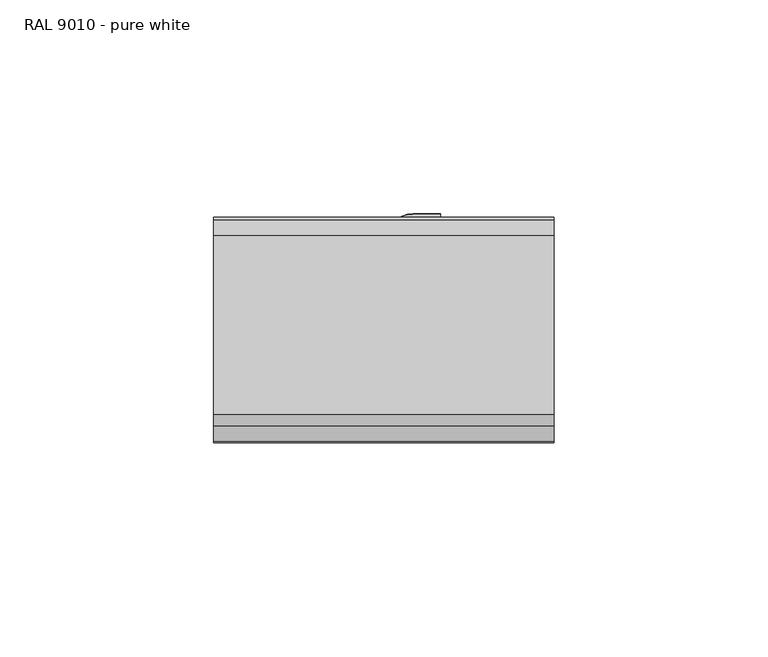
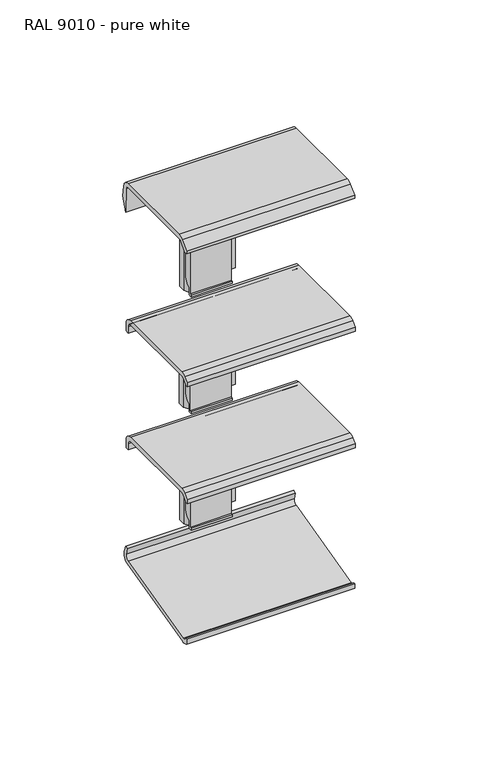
"""IFC4 building model written with IfcOpenShell, lengths in millimetres: cable carrier fitting geometry, Electrical_Installations_Hager_GBD-Joint-Cover-And-Coupling-Piece-Curved : RAL 9010 - pure white."""

from ifc_helpers import new_model, si_unit, point, frame, frame_2d, origin, place, context, project, spatial, polyline, circle_curve, trimmed, segment, composite_curve, outline, extrude, source, transform, mapped, element, save


def ral_9010_pure_white_cb2eff81(model_context):
    return source(origin(), model_context, "Body", "SweptSolid", [
        extrude(outline(composite_curve([segment(polyline([(18.4940065, -35.421875), (18.4940065, -34.621875), (20.4940065, -34.621875), (20.4940065, -38.5456204)]), True, "CONTINUOUS"), segment(trimmed(circle_curve(frame_2d((17.0216088, -43.6155883)), 6.1450891), [point((20.4940065, -38.5456204))], [point((23.1502565, -43.1663694))], False, "CARTESIAN"), True, "CONTINUOUS"), segment(polyline([(23.1502565, -43.1663694), (23.1502565, -70.2515165)]), True, "CONTINUOUS"), segment(trimmed(circle_curve(frame_2d((18.0199211, -70.2515165)), 5.1303355), [point((23.1502565, -70.2515165))], [point((20.4940065, -74.7458733))], False, "CARTESIAN"), True, "CONTINUOUS"), segment(polyline([(20.4940065, -74.7458733), (20.4940065, -78.4625), (18.727375, -78.4625), (18.727375, -77.457314), (19.6940065, -77.457314), (19.6940065, -35.421875), (18.4940065, -35.421875)]), True, "CONTINUOUS")], self_intersect=False)), frame((-0.7125, 0.0, 0.0), z_axis=(1.0, 0.0, 0.0), x_axis=(0.0, 1.0, 0.0)), (0.0, 0.0, 1.0), 19.5),
        extrude(outline(composite_curve([segment(polyline([(-0.7125, 28.3502565), (15.6888516, 28.3502565)]), True, "CONTINUOUS"), segment(trimmed(circle_curve(frame_2d((19.3875, 23.2502565)), 6.3), [point((15.6888516, 28.3502565))], [point((19.3875, 29.5502565))], False, "CARTESIAN"), True, "CONTINUOUS"), segment(polyline([(19.3875, 29.5502565), (25.7875, 29.5502565), (25.7875, 28.5502565), (18.7875, 28.5502565), (18.7875, 25.0502565), (17.5173294, 22.8502565), (16.234474, 22.8502565), (16.234474, 25.0502565), (1.791584, 25.0502565), (1.791584, 22.8502565), (0.5576706, 22.8502565), (-0.7125, 25.0502565), (-0.7125, 28.3502565)]), True, "CONTINUOUS")], self_intersect=False)), frame((0.0, 0.0, -79.0), z_axis=(0.0, 0.0, 1.0), x_axis=(1.0, 0.0, 0.0)), (0.0, 0.0, 1.0), 45.0),
        extrude(outline(composite_curve([segment(polyline([(18.4705289, 81.378125), (18.4705289, 82.178125), (20.4705289, 82.178125), (20.4705289, 78.2543796)]), True, "CONTINUOUS"), segment(trimmed(circle_curve(frame_2d((16.9981311, 73.1844117)), 6.1450891), [point((20.4705289, 78.2543796))], [point((23.1267789, 73.6336306))], False, "CARTESIAN"), True, "CONTINUOUS"), segment(polyline([(23.1267789, 73.6336306), (23.1267789, 46.5484835)]), True, "CONTINUOUS"), segment(trimmed(circle_curve(frame_2d((17.9964434, 46.5484835)), 5.1303355), [point((23.1267789, 46.5484835))], [point((20.4705289, 42.0541267))], False, "CARTESIAN"), True, "CONTINUOUS"), segment(polyline([(20.4705289, 42.0541267), (20.4705289, 38.3375), (18.7038973, 38.3375), (18.7038973, 39.342686), (19.6705289, 39.342686), (19.6705289, 81.378125), (18.4705289, 81.378125)]), True, "CONTINUOUS")], self_intersect=False)), frame((-0.7125, 0.0, 0.0), z_axis=(1.0, 0.0, 0.0), x_axis=(0.0, 1.0, 0.0)), (0.0, 0.0, 1.0), 19.5),
        extrude(outline(composite_curve([segment(polyline([(-0.7125, 28.3267789), (15.6888516, 28.3267789)]), True, "CONTINUOUS"), segment(trimmed(circle_curve(frame_2d((19.3875, 23.2267789)), 6.3), [point((15.6888516, 28.3267789))], [point((19.3875, 29.5267789))], False, "CARTESIAN"), True, "CONTINUOUS"), segment(polyline([(19.3875, 29.5267789), (25.7875, 29.5267789), (25.7875, 28.5267789), (18.7875, 28.5267789), (18.7875, 25.0267789), (17.5173294, 22.8267789), (16.234474, 22.8267789), (16.234474, 25.0267789), (1.791584, 25.0267789), (1.791584, 22.8267789), (0.5576706, 22.8267789), (-0.7125, 25.0267789), (-0.7125, 28.3267789)]), True, "CONTINUOUS")], self_intersect=False)), frame((0.0, 0.0, 37.8), z_axis=(0.0, 0.0, 1.0), x_axis=(1.0, 0.0, 0.0)), (0.0, 0.0, 1.0), 45.0),
        extrude(outline(composite_curve([segment(polyline([(18.54375, 22.878125), (18.54375, 23.678125), (20.54375, 23.678125), (20.54375, 19.7543796)]), True, "CONTINUOUS"), segment(trimmed(circle_curve(frame_2d((17.0713523, 14.6844117)), 6.1450891), [point((20.54375, 19.7543796))], [point((23.2, 15.1336306))], False, "CARTESIAN"), True, "CONTINUOUS"), segment(polyline([(23.2, 15.1336306), (23.2, -11.9515165)]), True, "CONTINUOUS"), segment(trimmed(circle_curve(frame_2d((18.0696645, -11.9515165)), 5.1303355), [point((23.2, -11.9515165))], [point((20.54375, -16.4458733))], False, "CARTESIAN"), True, "CONTINUOUS"), segment(polyline([(20.54375, -16.4458733), (20.54375, -20.1625), (18.7771185, -20.1625), (18.7771185, -19.157314), (19.74375, -19.157314), (19.74375, 22.878125), (18.54375, 22.878125)]), True, "CONTINUOUS")], self_intersect=False)), frame((-0.7125, 0.0, 0.0), z_axis=(1.0, 0.0, 0.0), x_axis=(0.0, 1.0, 0.0)), (0.0, 0.0, 1.0), 19.5),
        extrude(outline(composite_curve([segment(polyline([(-0.7125, 28.4), (15.6888516, 28.4)]), True, "CONTINUOUS"), segment(trimmed(circle_curve(frame_2d((19.3875, 23.3)), 6.3), [point((15.6888516, 28.4))], [point((19.3875, 29.6))], False, "CARTESIAN"), True, "CONTINUOUS"), segment(polyline([(19.3875, 29.6), (25.7875, 29.6), (25.7875, 28.6), (18.7875, 28.6), (18.7875, 25.1), (17.5173294, 22.9), (16.234474, 22.9), (16.234474, 25.1), (1.791584, 25.1), (1.791584, 22.9), (0.5576706, 22.9), (-0.7125, 25.1), (-0.7125, 28.4)]), True, "CONTINUOUS")], self_intersect=False)), frame((0.0, 0.0, -20.7), z_axis=(0.0, 0.0, 1.0), x_axis=(1.0, 0.0, 0.0)), (0.0, 0.0, 1.0), 45.0),
        extrude(outline(composite_curve([segment(trimmed(circle_curve(frame_2d((-21.1896074, -97.5386049)), 3.8260495), [point((-20.2640022, -101.2510043))], [point((-23.6489446, -100.4695288))], False, "CARTESIAN"), True, "CONTINUOUS"), segment(polyline([(-23.6489446, -100.4695288), (-23.6489446, -98.1698214), (-22.8680609, -98.1698214)]), True, "CONTINUOUS"), segment(trimmed(circle_curve(frame_2d((-21.1807337, -97.5741952)), 1.7893696), [point((-22.8680609, -98.1698214))], [point((-20.747846, -99.3104129))], True, "CARTESIAN"), True, "CONTINUOUS"), segment(polyline([(-20.747846, -99.3104129), (24.3782467, -88.0592143)]), True, "CONTINUOUS"), segment(trimmed(circle_curve(frame_2d((23.8789328, -86.0565754)), 2.063947), [point((24.3782467, -88.0592143))], [point((25.8815717, -85.5572614))], True, "CARTESIAN"), True, "CONTINUOUS"), segment(polyline([(25.8815717, -85.5572614), (25.0503152, -82.2232738), (26.5152062, -81.8580355), (27.5678423, -85.0977163)]), True, "CONTINUOUS"), segment(trimmed(circle_curve(frame_2d((23.921092, -86.2826173)), 3.8344202), [point((27.5678423, -85.0977163))], [point((24.8487222, -90.0031389))], False, "CARTESIAN"), True, "CONTINUOUS"), segment(polyline([(24.8487222, -90.0031389), (-20.2640022, -101.2510043)]), True, "CONTINUOUS")], self_intersect=False)), frame((-27.3, 0.0, 0.0), z_axis=(1.0, 0.0, 0.0), x_axis=(0.0, 1.0, 0.0)), (0.0, 0.0, 1.0), 79.6052121),
        extrude(outline(composite_curve([segment(polyline([(-19.5167137, -24.9502004), (22.482086, -24.9502004)]), True, "CONTINUOUS"), segment(trimmed(circle_curve(frame_2d((22.482086, -28.5723414)), 3.622141), [point((22.482086, -24.9502004))], [point((26.104227, -28.5723414))], False, "CARTESIAN"), True, "CONTINUOUS"), segment(polyline([(26.104227, -28.5723414), (26.104227, -32.234372), (24.3456031, -32.234372), (24.3456031, -29.1754875)]), True, "CONTINUOUS"), segment(trimmed(circle_curve(frame_2d((22.120316, -29.1754875)), 2.2252871), [point((24.3456031, -29.1754875))], [point((22.120316, -26.9502004))], True, "CARTESIAN"), True, "CONTINUOUS"), segment(polyline([(22.120316, -26.9502004), (-19.3049723, -26.9502004)]), True, "CONTINUOUS"), segment(trimmed(circle_curve(frame_2d((-19.3049723, -28.9765267)), 2.0263263), [point((-19.3049723, -26.9502004))], [point((-20.6074697, -27.4242707))], True, "CARTESIAN"), True, "CONTINUOUS"), segment(polyline([(-20.6074697, -27.4242707), (-23.1373675, -29.9541685), (-23.9237275, -29.9541685), (-23.9237275, -27.9121014), (-21.9836757, -25.9720496)]), True, "CONTINUOUS"), segment(trimmed(circle_curve(frame_2d((-19.5167137, -28.4390116)), 3.4888111), [point((-21.9836757, -25.9720496))], [point((-19.5167137, -24.9502004))], False, "CARTESIAN"), True, "CONTINUOUS")], self_intersect=False)), frame((-27.3, 0.0, 0.0), z_axis=(1.0, 0.0, 0.0), x_axis=(0.0, 1.0, 0.0)), (0.0, 0.0, 1.0), 79.6052121),
        extrude(outline(composite_curve([segment(polyline([(-19.5167137, 33.4972049), (22.482086, 33.4972049)]), True, "CONTINUOUS"), segment(trimmed(circle_curve(frame_2d((22.482086, 29.8750639)), 3.622141), [point((22.482086, 33.4972049))], [point((26.104227, 29.8750639))], False, "CARTESIAN"), True, "CONTINUOUS"), segment(polyline([(26.104227, 29.8750639), (26.104227, 26.2130334), (24.3456031, 26.2130334), (24.3456031, 29.2719178)]), True, "CONTINUOUS"), segment(trimmed(circle_curve(frame_2d((22.120316, 29.2719178)), 2.2252871), [point((24.3456031, 29.2719178))], [point((22.120316, 31.4972049))], True, "CARTESIAN"), True, "CONTINUOUS"), segment(polyline([(22.120316, 31.4972049), (-19.3049723, 31.4972049)]), True, "CONTINUOUS"), segment(trimmed(circle_curve(frame_2d((-19.3049723, 29.4708786)), 2.0263263), [point((-19.3049723, 31.4972049))], [point((-20.6074697, 31.0231346))], True, "CARTESIAN"), True, "CONTINUOUS"), segment(polyline([(-20.6074697, 31.0231346), (-23.1373675, 28.4932369), (-23.9237275, 28.4932369), (-23.9237275, 30.535304), (-21.9836757, 32.4753558)]), True, "CONTINUOUS"), segment(trimmed(circle_curve(frame_2d((-19.5167137, 30.0083938)), 3.4888111), [point((-21.9836757, 32.4753558))], [point((-19.5167137, 33.4972049))], False, "CARTESIAN"), True, "CONTINUOUS")], self_intersect=False)), frame((-27.3, 0.0, 0.0), z_axis=(1.0, 0.0, 0.0), x_axis=(0.0, 1.0, 0.0)), (0.0, 0.0, 1.0), 79.6052121),
        extrude(outline(composite_curve([segment(trimmed(circle_curve(frame_2d((-17.2691835, 96.9476356)), 2.0263263), [point((-17.2691835, 98.9739618))], [point((-18.5716809, 98.4998915))], True, "CARTESIAN"), True, "CONTINUOUS"), segment(polyline([(-18.5716809, 98.4998915), (-22.2097426, 94.8618298), (-23.5875333, 94.8618298), (-23.5875333, 96.3124662), (-20.0976106, 99.8023889)]), True, "CONTINUOUS"), segment(trimmed(circle_curve(frame_2d((-17.4133825, 97.1181609)), 3.7960717), [point((-20.0976106, 99.8023889))], [point((-17.347132, 100.9136544))], False, "CARTESIAN"), True, "CONTINUOUS"), segment(polyline([(-17.347132, 100.9136544), (24.5136298, 100.9136544)]), True, "CONTINUOUS"), segment(trimmed(circle_curve(frame_2d((24.5136298, 97.3781205)), 3.5355339), [point((24.5136298, 100.9136544))], [point((28.0491637, 97.3781205))], False, "CARTESIAN"), True, "CONTINUOUS"), segment(polyline([(28.0491637, 97.3781205), (28.775292, 92.211449), (26.5222689, 85.2773569), (25.8816204, 97.50166)]), True, "CONTINUOUS"), segment(trimmed(circle_curve(frame_2d((24.3301379, 97.4203502)), 1.5536116), [point((25.8816204, 97.50166))], [point((24.3301379, 98.9739618))], True, "CARTESIAN"), True, "CONTINUOUS"), segment(polyline([(24.3301379, 98.9739618), (-17.2691835, 98.9739618)]), True, "CONTINUOUS")], self_intersect=False)), frame((-27.3, 0.0, 0.0), z_axis=(1.0, 0.0, 0.0), x_axis=(0.0, 1.0, 0.0)), (0.0, 0.0, 1.0), 79.6052121),
    ])


if __name__ == "__main__":
    model = new_model("IFC4")
    model_context = context("Model", 3, world=origin())
    ifc_project = project(units=[si_unit("LENGTHUNIT", "METRE", prefix="MILLI")], contexts=[model_context])
    site = spatial("IfcSite", under=ifc_project)
    building = spatial("IfcBuilding", under=site)
    placement = place(None, origin())
    ral_9010_pure_white_shape = ral_9010_pure_white_cb2eff81(model_context)
    element("IfcCableCarrierFitting", 1, ObjectType="Electrical_Installations_Hager_GBD-Joint-Cover-And-Coupling-Piece-Curved : RAL 9010 - pure white", at=placement, inside=building, context=model_context, shape_type="MappedRepresentation", body=[
        mapped(ral_9010_pure_white_shape, transform((0.0, 0.0, 0.0), x_axis=(1.0, 0.0, 0.0), y_axis=(0.0, 1.0, 0.0), z_axis=(0.0, 0.0, 1.0))),
    ])
    save(model, "model.ifc")
